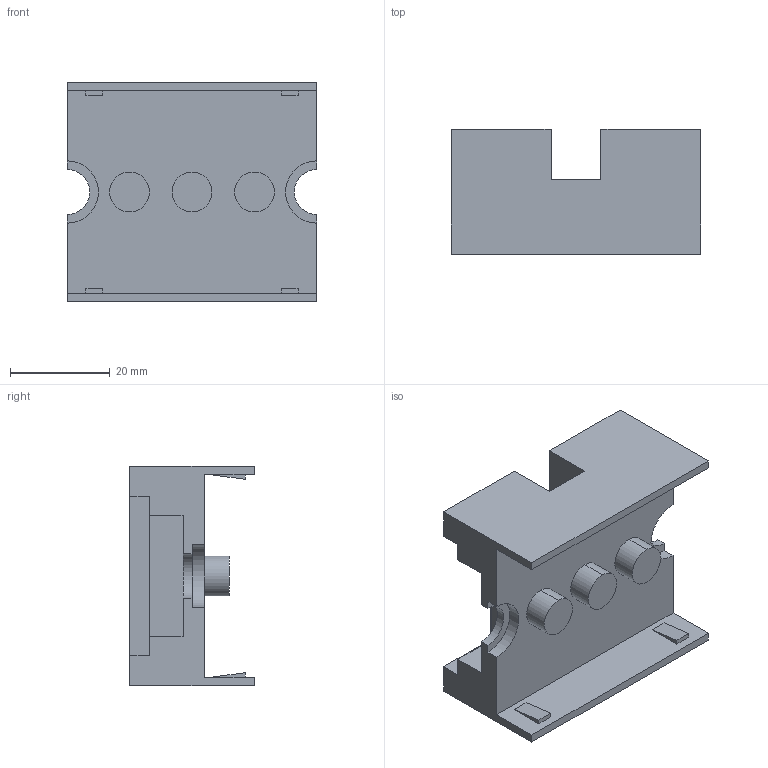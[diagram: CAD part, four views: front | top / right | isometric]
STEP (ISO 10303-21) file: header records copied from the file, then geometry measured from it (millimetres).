
FILE_DESCRIPTION (( 'STEP AP214' ), '1' );
FILE_NAME ('YIS40-10-01-050 Èçîëÿòîð øèíîäåðæàòåëÿ 50-10-1.STEP', '2025-08-19T12:58:55', ( '' ), ( '' ), 'SwSTEP 2.0', 'SolidWorks 2023', '' );
FILE_SCHEMA (( 'AUTOMOTIVE_DESIGN' ));
Length unit declared in the file: millimetre
Products named in the file (1): YIS40-10-01-050 Изолятор шинодержателя 50-10-1
Bounding box: 50 x 25 x 44 mm (x, y, z)
Volume: 23846.3 mm3; surface area: 10789.4 mm2
Topology: 1 solids, 1 shells, 67 faces, 174 edges, 116 vertices
Faces by surface type: plane 55, cylinder 12
Entity records: 2055 total; most frequent: CARTESIAN_POINT 358, ORIENTED_EDGE 348, DIRECTION 334, EDGE_CURVE 174, LINE 150, VECTOR 150, VERTEX_POINT 116, AXIS2_PLACEMENT_3D 92
